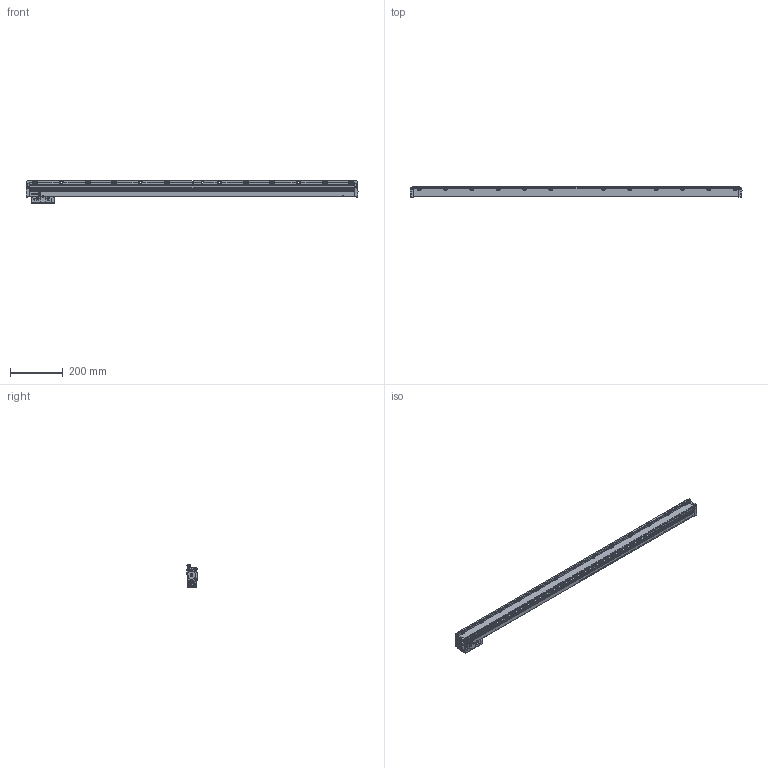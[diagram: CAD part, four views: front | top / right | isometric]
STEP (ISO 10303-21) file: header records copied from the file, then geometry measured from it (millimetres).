
FILE_DESCRIPTION(('Creo Elements/Direct Modeling STEP Export'),'2;1');
FILE_NAME('Regla G2-1140-T.stp','2015-10-01T 9:41:20',(''),(''),'Creo Elements/Direct Modeling STEP processor for AP214 (Solid Model)','Creo Elements/Direct Modeling 18.1G 27-Feb-2015 (C) Parametric Technology GmbH','');
FILE_SCHEMA(('AUTOMOTIVE_DESIGN { 1 0 10303 214 1 1 1 1 }'));
Length unit declared in the file: millimetre
Products named in the file (3): CABEZA; REGLA; Regla_G2_cm1140-T
Assembly tree (2 placements, depth 2):
  Regla_G2_cm1140-T
    REGLA
    CABEZA
Bounding box: 1261 x 38 x 85 mm (x, y, z)
Volume: 1938330.4 mm3; surface area: 384158.4 mm2
Topology: 2 solids, 7 shells, 1837 faces, 5355 edges, 3478 vertices
Faces by surface type: plane 819, cylinder 782, cone 166, torus 36, bspline 30, sphere 4
Entity records: 70139 total; most frequent: CARTESIAN_POINT 22165, ORIENTED_EDGE 10694, DIRECTION 9419, EDGE_CURVE 5347, VERTEX_POINT 3478, AXIS2_PLACEMENT_3D 3423, VECTOR 2573, LINE 2573
